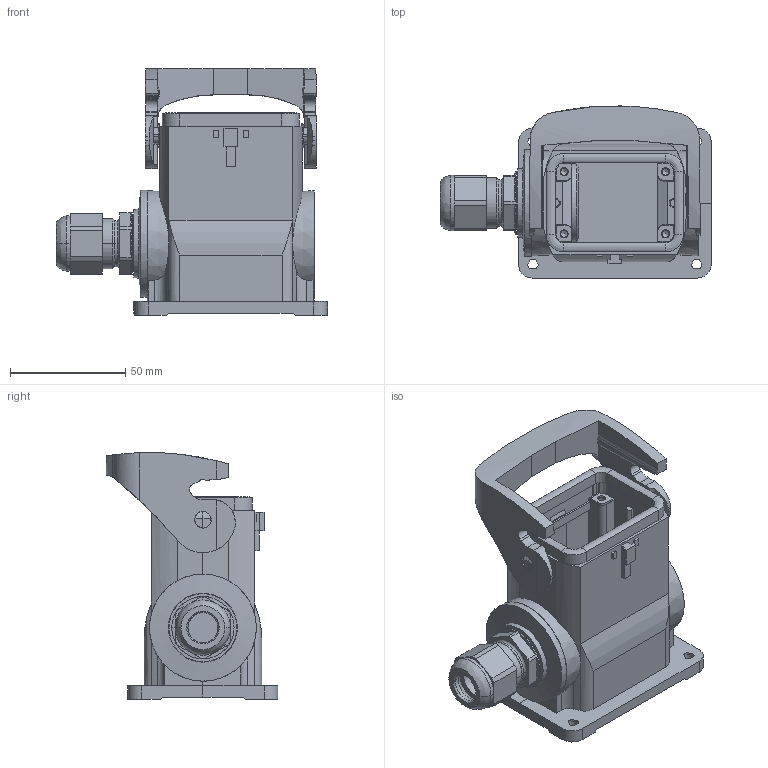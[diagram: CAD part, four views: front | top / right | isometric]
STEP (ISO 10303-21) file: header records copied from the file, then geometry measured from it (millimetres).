
FILE_DESCRIPTION(/* description */ (''),/* implementation_level */ '2;1');
FILE_NAME(/* name */ '100766253ugm000_a.stp',/* time_stamp */ '2018-04-19T13:45:39+02:00',/* author */ (''),/* organization */ (''),/* preprocessor_version */ 'ST-DEVELOPER v16',/* originating_system */ 'SIEMENS PLM Software NX 10.0',/* authorisation */ '');
FILE_SCHEMA (('AUTOMOTIVE_DESIGN { 1 0 10303 214 3 1 1 1 }'));
Length unit declared in the file: millimetre
Products named in the file (1): 100766253ugm000_a
Bounding box: 117.65 x 74.48 x 107.09 mm (x, y, z)
Volume: 168993.4 mm3; surface area: 64863.4 mm2
Topology: 2 solids, 2 shells, 684 faces, 3236 edges, 3405 vertices
Faces by surface type: plane 408, cylinder 169, cone 83, torus 13, bspline 10, extrusion 1
Full cylindrical faces by diameter (mm): 3 x4, 3.4 x4, 3.5 x4, 7.2 x2, 20 x1, 30 x1, 46.4 x1
Entity records: 39932 total; most frequent: CARTESIAN_POINT 9958, ORIENTED_EDGE 4830, DIRECTION 3933, EDGE_CURVE 2415, VERTEX_POINT 1859, VECTOR 1471, LINE 1470, PRESENTATION_STYLE_ASSIGNMENT 1430
